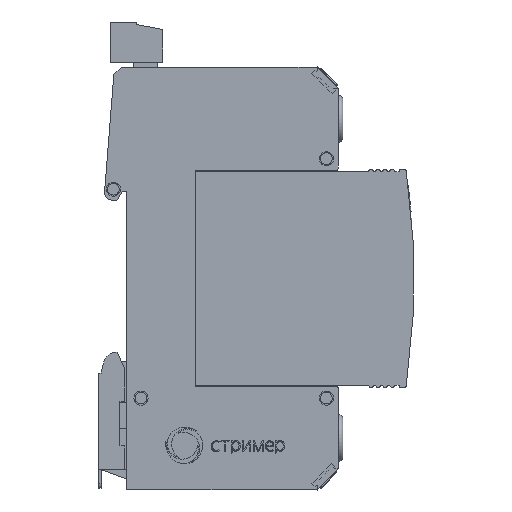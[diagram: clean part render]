
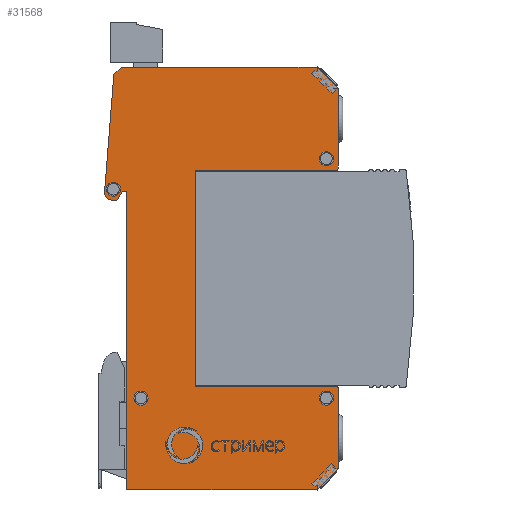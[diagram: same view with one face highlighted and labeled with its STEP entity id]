
A CAD part, front view. The second image highlights one B-rep face of the part: STEP entity #31568.
In plain terms, the highlighted planar face has unit normal (0, -1, 0).
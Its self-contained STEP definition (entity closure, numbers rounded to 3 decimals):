
#29768=CARTESIAN_POINT('',(-14.5,-9.,-45.));
#29769=VERTEX_POINT('',#29768);
#29770=CARTESIAN_POINT('',(26.,-9.,-45.));
#29771=VERTEX_POINT('',#29770);
#29772=CARTESIAN_POINT('',(-14.5,-9.,-45.));
#29773=DIRECTION('',(1.,0.,-0.));
#29774=VECTOR('',#29773,40.5);
#29775=LINE('',#29772,#29774);
#29776=EDGE_CURVE('',#29769,#29771,#29775,.T.);
#30438=CARTESIAN_POINT('',(-14.5,-9.,18.5));
#30439=VERTEX_POINT('',#30438);
#30440=CARTESIAN_POINT('',(-14.5,-9.,18.5));
#30441=DIRECTION('',(0.,0.,-1.));
#30442=VECTOR('',#30441,63.5);
#30443=LINE('',#30440,#30442);
#30444=EDGE_CURVE('',#30439,#29769,#30443,.T.);
#30639=CARTESIAN_POINT('',(-15.5,-9.,45.));
#30640=VERTEX_POINT('',#30639);
#30641=CARTESIAN_POINT('',(-17.29,-9.,43.498));
#30642=VERTEX_POINT('',#30641);
#30643=CARTESIAN_POINT('',(-15.5,-9.,45.));
#30644=DIRECTION('',(-0.766,0.,-0.643));
#30645=VECTOR('',#30644,2.337);
#30646=LINE('',#30643,#30645);
#30647=EDGE_CURVE('',#30640,#30642,#30646,.T.);
#30679=CARTESIAN_POINT('',(-19.273,-9.,18.306));
#30680=VERTEX_POINT('',#30679);
#30681=CARTESIAN_POINT('',(-17.29,-9.,43.498));
#30682=DIRECTION('',(-0.078,0.,-0.997));
#30683=VECTOR('',#30682,25.27);
#30684=LINE('',#30681,#30683);
#30685=EDGE_CURVE('',#30642,#30680,#30684,.T.);
#30710=CARTESIAN_POINT('',(-17.999,-9.,16.704));
#30711=VERTEX_POINT('',#30710);
#30712=CARTESIAN_POINT('',(-17.777,-9.,18.188));
#30713=DIRECTION('',(0.,-1.,0.));
#30714=DIRECTION('',(0.,0.,1.));
#30715=AXIS2_PLACEMENT_3D('',#30712,#30713,#30714);
#30716=CIRCLE('',#30715,1.5);
#30717=EDGE_CURVE('',#30680,#30711,#30716,.T.);
#30743=CARTESIAN_POINT('',(-16.632,-9.,16.5));
#30744=VERTEX_POINT('',#30743);
#30745=CARTESIAN_POINT('',(-17.999,-9.,16.704));
#30746=DIRECTION('',(0.989,0.,-0.148));
#30747=VECTOR('',#30746,1.383);
#30748=LINE('',#30745,#30747);
#30749=EDGE_CURVE('',#30711,#30744,#30748,.T.);
#30774=CARTESIAN_POINT('',(-15.5,-9.,18.5));
#30775=VERTEX_POINT('',#30774);
#30776=CARTESIAN_POINT('',(-16.632,-9.,16.5));
#30777=DIRECTION('',(0.492,0.,0.87));
#30778=VECTOR('',#30777,2.298);
#30779=LINE('',#30776,#30778);
#30780=EDGE_CURVE('',#30744,#30775,#30779,.T.);
#30805=CARTESIAN_POINT('',(-15.5,-9.,18.5));
#30806=DIRECTION('',(1.,0.,0.));
#30807=VECTOR('',#30806,1.);
#30808=LINE('',#30805,#30807);
#30809=EDGE_CURVE('',#30775,#30439,#30808,.T.);
#30827=CARTESIAN_POINT('',(30.5,-9.,-40.5));
#30828=VERTEX_POINT('',#30827);
#30829=CARTESIAN_POINT('',(26.,-9.,-45.));
#30830=DIRECTION('',(0.707,0.,0.707));
#30831=VECTOR('',#30830,6.364);
#30832=LINE('',#30829,#30831);
#30833=EDGE_CURVE('',#29771,#30828,#30832,.T.);
#30878=CARTESIAN_POINT('',(30.5,-9.,-23.5));
#30879=VERTEX_POINT('',#30878);
#30880=CARTESIAN_POINT('',(30.5,-9.,-40.5));
#30881=DIRECTION('',(0.,0.,1.));
#30882=VECTOR('',#30881,17.);
#30883=LINE('',#30880,#30882);
#30884=EDGE_CURVE('',#30828,#30879,#30883,.T.);
#30909=CARTESIAN_POINT('',(30.,-9.,-23.));
#30910=VERTEX_POINT('',#30909);
#30911=CARTESIAN_POINT('',(30.,-9.,-23.5));
#30912=DIRECTION('',(0.,-1.,0.));
#30913=DIRECTION('',(0.,0.,1.));
#30914=AXIS2_PLACEMENT_3D('',#30911,#30912,#30913);
#30915=CIRCLE('',#30914,0.5);
#30916=EDGE_CURVE('',#30879,#30910,#30915,.T.);
#30942=CARTESIAN_POINT('',(0.,-9.,-23.));
#30943=VERTEX_POINT('',#30942);
#30944=CARTESIAN_POINT('',(30.,-9.,-23.));
#30945=DIRECTION('',(-1.,0.,0.));
#30946=VECTOR('',#30945,30.);
#30947=LINE('',#30944,#30946);
#30948=EDGE_CURVE('',#30910,#30943,#30947,.T.);
#30973=CARTESIAN_POINT('',(0.,-9.,23.));
#30974=VERTEX_POINT('',#30973);
#30975=CARTESIAN_POINT('',(0.,-9.,-23.));
#30976=DIRECTION('',(0.,0.,1.));
#30977=VECTOR('',#30976,46.);
#30978=LINE('',#30975,#30977);
#30979=EDGE_CURVE('',#30943,#30974,#30978,.T.);
#31004=CARTESIAN_POINT('',(30.,-9.,23.));
#31005=VERTEX_POINT('',#31004);
#31006=CARTESIAN_POINT('',(0.,-9.,23.));
#31007=DIRECTION('',(1.,0.,0.));
#31008=VECTOR('',#31007,30.);
#31009=LINE('',#31006,#31008);
#31010=EDGE_CURVE('',#30974,#31005,#31009,.T.);
#31035=CARTESIAN_POINT('',(30.5,-9.,23.5));
#31036=VERTEX_POINT('',#31035);
#31037=CARTESIAN_POINT('',(30.,-9.,23.5));
#31038=DIRECTION('',(0.,-1.,0.));
#31039=DIRECTION('',(0.,0.,1.));
#31040=AXIS2_PLACEMENT_3D('',#31037,#31038,#31039);
#31041=CIRCLE('',#31040,0.5);
#31042=EDGE_CURVE('',#31005,#31036,#31041,.T.);
#31088=CARTESIAN_POINT('',(30.5,-9.,40.5));
#31089=VERTEX_POINT('',#31088);
#31090=CARTESIAN_POINT('',(30.5,-9.,23.5));
#31091=DIRECTION('',(0.,0.,1.));
#31092=VECTOR('',#31091,17.);
#31093=LINE('',#31090,#31092);
#31094=EDGE_CURVE('',#31036,#31089,#31093,.T.);
#31119=CARTESIAN_POINT('',(26.,-9.,45.));
#31120=VERTEX_POINT('',#31119);
#31121=CARTESIAN_POINT('',(30.5,-9.,40.5));
#31122=DIRECTION('',(-0.707,0.,0.707));
#31123=VECTOR('',#31122,6.364);
#31124=LINE('',#31121,#31123);
#31125=EDGE_CURVE('',#31089,#31120,#31124,.T.);
#31150=CARTESIAN_POINT('',(-17.38,-9.,17.5));
#31151=VERTEX_POINT('',#31150);
#31160=CARTESIAN_POINT('',(-18.88,-9.,19.));
#31161=VERTEX_POINT('',#31160);
#31162=CARTESIAN_POINT('',(-17.38,-9.,19.));
#31163=DIRECTION('',(0.,-1.,0.));
#31164=DIRECTION('',(-1.,0.,0.));
#31165=AXIS2_PLACEMENT_3D('',#31162,#31163,#31164);
#31166=CIRCLE('',#31165,1.5);
#31167=EDGE_CURVE('',#31151,#31161,#31166,.T.);
#31192=CARTESIAN_POINT('',(28.,-9.,24.));
#31193=VERTEX_POINT('',#31192);
#31202=CARTESIAN_POINT('',(26.5,-9.,25.5));
#31203=VERTEX_POINT('',#31202);
#31204=CARTESIAN_POINT('',(28.,-9.,25.5));
#31205=DIRECTION('',(0.,-1.,0.));
#31206=DIRECTION('',(-1.,0.,0.));
#31207=AXIS2_PLACEMENT_3D('',#31204,#31205,#31206);
#31208=CIRCLE('',#31207,1.5);
#31209=EDGE_CURVE('',#31193,#31203,#31208,.T.);
#31234=CARTESIAN_POINT('',(-11.5,-9.,-27.));
#31235=VERTEX_POINT('',#31234);
#31244=CARTESIAN_POINT('',(-13.,-9.,-25.5));
#31245=VERTEX_POINT('',#31244);
#31246=CARTESIAN_POINT('',(-11.5,-9.,-25.5));
#31247=DIRECTION('',(0.,-1.,0.));
#31248=DIRECTION('',(-1.,0.,0.));
#31249=AXIS2_PLACEMENT_3D('',#31246,#31247,#31248);
#31250=CIRCLE('',#31249,1.5);
#31251=EDGE_CURVE('',#31235,#31245,#31250,.T.);
#31276=CARTESIAN_POINT('',(28.,-9.,-27.));
#31277=VERTEX_POINT('',#31276);
#31286=CARTESIAN_POINT('',(26.5,-9.,-25.5));
#31287=VERTEX_POINT('',#31286);
#31288=CARTESIAN_POINT('',(28.,-9.,-25.5));
#31289=DIRECTION('',(0.,-1.,0.));
#31290=DIRECTION('',(-1.,0.,0.));
#31291=AXIS2_PLACEMENT_3D('',#31288,#31289,#31290);
#31292=CIRCLE('',#31291,1.5);
#31293=EDGE_CURVE('',#31277,#31287,#31292,.T.);
#31420=CARTESIAN_POINT('',(26.,-9.,45.));
#31421=DIRECTION('',(-1.,0.,0.));
#31422=VECTOR('',#31421,41.5);
#31423=LINE('',#31420,#31422);
#31424=EDGE_CURVE('',#31120,#30640,#31423,.T.);
#31503=CARTESIAN_POINT('',(0.,-9.,0.));
#31504=DIRECTION('',(0.,-1.,0.));
#31505=DIRECTION('',(0.,0.,1.));
#31506=AXIS2_PLACEMENT_3D('',#31503,#31504,#31505);
#31507=PLANE('',#31506);
#31508=ORIENTED_EDGE('',*,*,#31293,.F.);
#31509=CARTESIAN_POINT('',(28.,-9.,-25.5));
#31510=DIRECTION('',(0.,-1.,0.));
#31511=DIRECTION('',(-1.,0.,0.));
#31512=AXIS2_PLACEMENT_3D('',#31509,#31510,#31511);
#31513=CIRCLE('',#31512,1.5);
#31514=EDGE_CURVE('',#31287,#31277,#31513,.T.);
#31515=ORIENTED_EDGE('',*,*,#31514,.F.);
#31516=EDGE_LOOP('',(#31508,#31515));
#31517=FACE_BOUND('',#31516,.T.);
#31518=ORIENTED_EDGE('',*,*,#31251,.F.);
#31519=CARTESIAN_POINT('',(-11.5,-9.,-25.5));
#31520=DIRECTION('',(0.,-1.,0.));
#31521=DIRECTION('',(-1.,0.,0.));
#31522=AXIS2_PLACEMENT_3D('',#31519,#31520,#31521);
#31523=CIRCLE('',#31522,1.5);
#31524=EDGE_CURVE('',#31245,#31235,#31523,.T.);
#31525=ORIENTED_EDGE('',*,*,#31524,.F.);
#31526=EDGE_LOOP('',(#31518,#31525));
#31527=FACE_BOUND('',#31526,.T.);
#31528=ORIENTED_EDGE('',*,*,#31209,.F.);
#31529=CARTESIAN_POINT('',(28.,-9.,25.5));
#31530=DIRECTION('',(0.,-1.,0.));
#31531=DIRECTION('',(-1.,0.,0.));
#31532=AXIS2_PLACEMENT_3D('',#31529,#31530,#31531);
#31533=CIRCLE('',#31532,1.5);
#31534=EDGE_CURVE('',#31203,#31193,#31533,.T.);
#31535=ORIENTED_EDGE('',*,*,#31534,.F.);
#31536=EDGE_LOOP('',(#31528,#31535));
#31537=FACE_BOUND('',#31536,.T.);
#31538=ORIENTED_EDGE('',*,*,#31167,.F.);
#31539=CARTESIAN_POINT('',(-17.38,-9.,19.));
#31540=DIRECTION('',(0.,-1.,0.));
#31541=DIRECTION('',(-1.,0.,0.));
#31542=AXIS2_PLACEMENT_3D('',#31539,#31540,#31541);
#31543=CIRCLE('',#31542,1.5);
#31544=EDGE_CURVE('',#31161,#31151,#31543,.T.);
#31545=ORIENTED_EDGE('',*,*,#31544,.F.);
#31546=EDGE_LOOP('',(#31538,#31545));
#31547=FACE_BOUND('',#31546,.T.);
#31548=ORIENTED_EDGE('',*,*,#30647,.T.);
#31549=ORIENTED_EDGE('',*,*,#30685,.T.);
#31550=ORIENTED_EDGE('',*,*,#30717,.T.);
#31551=ORIENTED_EDGE('',*,*,#30749,.T.);
#31552=ORIENTED_EDGE('',*,*,#30780,.T.);
#31553=ORIENTED_EDGE('',*,*,#30809,.T.);
#31554=ORIENTED_EDGE('',*,*,#30444,.T.);
#31555=ORIENTED_EDGE('',*,*,#29776,.T.);
#31556=ORIENTED_EDGE('',*,*,#30833,.T.);
#31557=ORIENTED_EDGE('',*,*,#30884,.T.);
#31558=ORIENTED_EDGE('',*,*,#30916,.T.);
#31559=ORIENTED_EDGE('',*,*,#30948,.T.);
#31560=ORIENTED_EDGE('',*,*,#30979,.T.);
#31561=ORIENTED_EDGE('',*,*,#31010,.T.);
#31562=ORIENTED_EDGE('',*,*,#31042,.T.);
#31563=ORIENTED_EDGE('',*,*,#31094,.T.);
#31564=ORIENTED_EDGE('',*,*,#31125,.T.);
#31565=ORIENTED_EDGE('',*,*,#31424,.T.);
#31566=EDGE_LOOP('',(#31548,#31549,#31550,#31551,#31552,#31553,#31554,#31555,#31556,#31557,#31558,#31559,#31560,#31561,#31562,#31563,#31564,#31565));
#31567=FACE_BOUND('',#31566,.T.);
#31568=ADVANCED_FACE('',(#31517,#31527,#31537,#31547,#31567),#31507,.T.);
